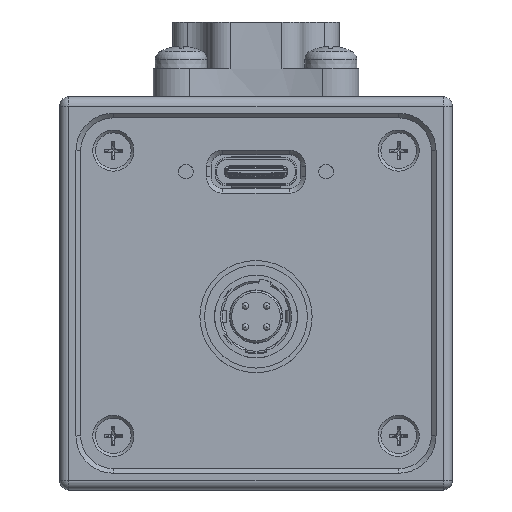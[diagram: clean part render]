
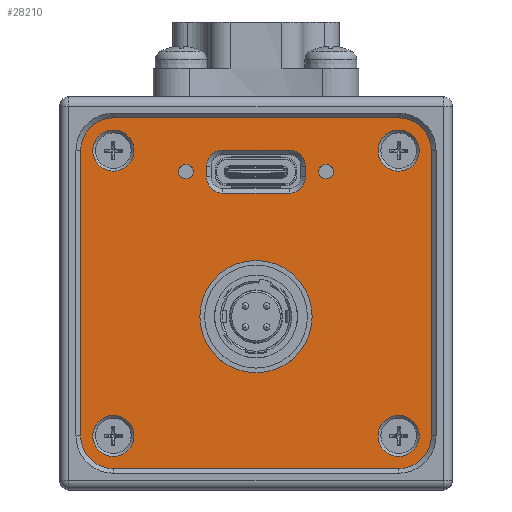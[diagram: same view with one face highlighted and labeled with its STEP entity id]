
A CAD part, top view. The second image highlights one B-rep face of the part: STEP entity #28210.
In plain terms, the highlighted planar face has unit normal (0, 0, 1).
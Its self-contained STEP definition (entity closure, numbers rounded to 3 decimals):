
#375=FACE_BOUND('',#4734,.T.);
#376=FACE_BOUND('',#4735,.T.);
#377=FACE_BOUND('',#4736,.T.);
#378=FACE_BOUND('',#4737,.T.);
#379=FACE_BOUND('',#4738,.T.);
#380=FACE_BOUND('',#4739,.T.);
#381=FACE_BOUND('',#4740,.T.);
#382=FACE_BOUND('',#4741,.T.);
#1626=CIRCLE('',#30449,1.75);
#1628=CIRCLE('',#30453,1.75);
#1630=CIRCLE('',#30457,1.75);
#1632=CIRCLE('',#30461,1.75);
#1635=CIRCLE('',#30469,3.5);
#1636=CIRCLE('',#30470,3.5);
#1637=CIRCLE('',#30471,3.5);
#1638=CIRCLE('',#30472,3.5);
#1639=CIRCLE('',#30473,6.);
#1640=CIRCLE('',#30474,0.784);
#1641=CIRCLE('',#30475,0.784);
#1642=CIRCLE('',#30476,2.2);
#1643=CIRCLE('',#30477,2.2);
#1644=CIRCLE('',#30478,2.2);
#1645=CIRCLE('',#30479,2.2);
#3118=FACE_OUTER_BOUND('',#4733,.T.);
#4733=EDGE_LOOP('',(#23245,#23246,#23247,#23248,#23249,#23250,#23251,#23252));
#4734=EDGE_LOOP('',(#23253));
#4735=EDGE_LOOP('',(#23254));
#4736=EDGE_LOOP('',(#23255));
#4737=EDGE_LOOP('',(#23256));
#4738=EDGE_LOOP('',(#23257));
#4739=EDGE_LOOP('',(#23258));
#4740=EDGE_LOOP('',(#23259));
#4741=EDGE_LOOP('',(#23260,#23261,#23262,#23263,#23264,#23265,#23266,#23267));
#7571=LINE('',#47668,#10283);
#7576=LINE('',#47682,#10288);
#7580=LINE('',#47694,#10292);
#7584=LINE('',#47706,#10296);
#7593=LINE('',#47732,#10305);
#7594=LINE('',#47736,#10306);
#7595=LINE('',#47740,#10307);
#7596=LINE('',#47744,#10308);
#10283=VECTOR('',#37091,10.);
#10288=VECTOR('',#37104,10.);
#10292=VECTOR('',#37116,10.);
#10296=VECTOR('',#37128,10.);
#10305=VECTOR('',#37157,10.);
#10306=VECTOR('',#37160,10.);
#10307=VECTOR('',#37163,10.);
#10308=VECTOR('',#37166,10.);
#12697=VERTEX_POINT('',#47665);
#12698=VERTEX_POINT('',#47667);
#12701=VERTEX_POINT('',#47675);
#12703=VERTEX_POINT('',#47680);
#12705=VERTEX_POINT('',#47687);
#12707=VERTEX_POINT('',#47692);
#12709=VERTEX_POINT('',#47699);
#12711=VERTEX_POINT('',#47704);
#12717=VERTEX_POINT('',#47730);
#12718=VERTEX_POINT('',#47731);
#12719=VERTEX_POINT('',#47733);
#12720=VERTEX_POINT('',#47735);
#12721=VERTEX_POINT('',#47737);
#12722=VERTEX_POINT('',#47739);
#12723=VERTEX_POINT('',#47741);
#12724=VERTEX_POINT('',#47743);
#12725=VERTEX_POINT('',#47746);
#12726=VERTEX_POINT('',#47748);
#12727=VERTEX_POINT('',#47750);
#12728=VERTEX_POINT('',#47752);
#12729=VERTEX_POINT('',#47754);
#12730=VERTEX_POINT('',#47756);
#12731=VERTEX_POINT('',#47758);
#16301=EDGE_CURVE('',#12697,#12698,#7571,.T.);
#16306=EDGE_CURVE('',#12701,#12697,#1626,.T.);
#16308=EDGE_CURVE('',#12703,#12701,#7576,.T.);
#16312=EDGE_CURVE('',#12705,#12703,#1628,.T.);
#16314=EDGE_CURVE('',#12707,#12705,#7580,.T.);
#16318=EDGE_CURVE('',#12709,#12707,#1630,.T.);
#16320=EDGE_CURVE('',#12711,#12709,#7584,.T.);
#16323=EDGE_CURVE('',#12698,#12711,#1632,.T.);
#16333=EDGE_CURVE('',#12717,#12718,#7593,.T.);
#16334=EDGE_CURVE('',#12719,#12717,#1635,.T.);
#16335=EDGE_CURVE('',#12720,#12719,#7594,.T.);
#16336=EDGE_CURVE('',#12721,#12720,#1636,.T.);
#16337=EDGE_CURVE('',#12722,#12721,#7595,.T.);
#16338=EDGE_CURVE('',#12723,#12722,#1637,.T.);
#16339=EDGE_CURVE('',#12724,#12723,#7596,.T.);
#16340=EDGE_CURVE('',#12718,#12724,#1638,.T.);
#16341=EDGE_CURVE('',#12725,#12725,#1639,.T.);
#16342=EDGE_CURVE('',#12726,#12726,#1640,.T.);
#16343=EDGE_CURVE('',#12727,#12727,#1641,.T.);
#16344=EDGE_CURVE('',#12728,#12728,#1642,.T.);
#16345=EDGE_CURVE('',#12729,#12729,#1643,.T.);
#16346=EDGE_CURVE('',#12730,#12730,#1644,.T.);
#16347=EDGE_CURVE('',#12731,#12731,#1645,.T.);
#23245=ORIENTED_EDGE('',*,*,#16333,.F.);
#23246=ORIENTED_EDGE('',*,*,#16334,.F.);
#23247=ORIENTED_EDGE('',*,*,#16335,.F.);
#23248=ORIENTED_EDGE('',*,*,#16336,.F.);
#23249=ORIENTED_EDGE('',*,*,#16337,.F.);
#23250=ORIENTED_EDGE('',*,*,#16338,.F.);
#23251=ORIENTED_EDGE('',*,*,#16339,.F.);
#23252=ORIENTED_EDGE('',*,*,#16340,.F.);
#23253=ORIENTED_EDGE('',*,*,#16341,.F.);
#23254=ORIENTED_EDGE('',*,*,#16342,.T.);
#23255=ORIENTED_EDGE('',*,*,#16343,.T.);
#23256=ORIENTED_EDGE('',*,*,#16344,.T.);
#23257=ORIENTED_EDGE('',*,*,#16345,.T.);
#23258=ORIENTED_EDGE('',*,*,#16346,.T.);
#23259=ORIENTED_EDGE('',*,*,#16347,.T.);
#23260=ORIENTED_EDGE('',*,*,#16301,.F.);
#23261=ORIENTED_EDGE('',*,*,#16306,.F.);
#23262=ORIENTED_EDGE('',*,*,#16308,.F.);
#23263=ORIENTED_EDGE('',*,*,#16312,.F.);
#23264=ORIENTED_EDGE('',*,*,#16314,.F.);
#23265=ORIENTED_EDGE('',*,*,#16318,.F.);
#23266=ORIENTED_EDGE('',*,*,#16320,.F.);
#23267=ORIENTED_EDGE('',*,*,#16323,.F.);
#25480=PLANE('',#30468);
#28210=ADVANCED_FACE('',(#3118,#375,#376,#377,#378,#379,#380,#381,#382),
#25480,.F.);
#30449=AXIS2_PLACEMENT_3D('',#47677,#37099,#37100);
#30453=AXIS2_PLACEMENT_3D('',#47689,#37111,#37112);
#30457=AXIS2_PLACEMENT_3D('',#47701,#37123,#37124);
#30461=AXIS2_PLACEMENT_3D('',#47710,#37134,#37135);
#30468=AXIS2_PLACEMENT_3D('',#47729,#37155,#37156);
#30469=AXIS2_PLACEMENT_3D('',#47734,#37158,#37159);
#30470=AXIS2_PLACEMENT_3D('',#47738,#37161,#37162);
#30471=AXIS2_PLACEMENT_3D('',#47742,#37164,#37165);
#30472=AXIS2_PLACEMENT_3D('',#47745,#37167,#37168);
#30473=AXIS2_PLACEMENT_3D('',#47747,#37169,#37170);
#30474=AXIS2_PLACEMENT_3D('',#47749,#37171,#37172);
#30475=AXIS2_PLACEMENT_3D('',#47751,#37173,#37174);
#30476=AXIS2_PLACEMENT_3D('',#47753,#37175,#37176);
#30477=AXIS2_PLACEMENT_3D('',#47755,#37177,#37178);
#30478=AXIS2_PLACEMENT_3D('',#47757,#37179,#37180);
#30479=AXIS2_PLACEMENT_3D('',#47759,#37181,#37182);
#37091=DIRECTION('',(0.,1.,0.));
#37099=DIRECTION('center_axis',(0.,0.,
1.));
#37100=DIRECTION('ref_axis',(0.707,-0.707,0.));
#37104=DIRECTION('',(1.,0.,0.));
#37111=DIRECTION('center_axis',(0.,0.,
1.));
#37112=DIRECTION('ref_axis',(-0.707,-0.707,0.));
#37116=DIRECTION('',(0.,-1.,0.));
#37123=DIRECTION('center_axis',(0.,0.,
1.));
#37124=DIRECTION('ref_axis',(-0.707,0.707,0.));
#37128=DIRECTION('',(-1.,0.,0.));
#37134=DIRECTION('center_axis',(0.,0.,
1.));
#37135=DIRECTION('ref_axis',(0.707,0.707,0.));
#37155=DIRECTION('center_axis',(0.,0.,
-1.));
#37156=DIRECTION('ref_axis',(-1.,0.,0.));
#37157=DIRECTION('',(1.,0.,0.));
#37158=DIRECTION('center_axis',(0.,0.,
-1.));
#37159=DIRECTION('ref_axis',(0.,-1.,0.));
#37160=DIRECTION('',(0.,1.,0.));
#37161=DIRECTION('center_axis',(0.,0.,
-1.));
#37162=DIRECTION('ref_axis',(1.,0.,0.));
#37163=DIRECTION('',(-1.,0.,0.));
#37164=DIRECTION('center_axis',(0.,0.,
-1.));
#37165=DIRECTION('ref_axis',(0.,1.,0.));
#37166=DIRECTION('',(0.,-1.,0.));
#37167=DIRECTION('center_axis',(0.,0.,
-1.));
#37168=DIRECTION('ref_axis',(-1.,0.,0.));
#37169=DIRECTION('center_axis',(0.,0.,
1.));
#37170=DIRECTION('ref_axis',(-1.,0.,0.));
#37171=DIRECTION('center_axis',(0.,0.,
-1.));
#37172=DIRECTION('ref_axis',(1.,0.,0.));
#37173=DIRECTION('center_axis',(0.,0.,
-1.));
#37174=DIRECTION('ref_axis',(1.,0.,0.));
#37175=DIRECTION('center_axis',(0.,0.,
-1.));
#37176=DIRECTION('ref_axis',(1.,0.,0.));
#37177=DIRECTION('center_axis',(0.,0.,
-1.));
#37178=DIRECTION('ref_axis',(1.,0.,0.));
#37179=DIRECTION('center_axis',(0.,0.,
-1.));
#37180=DIRECTION('ref_axis',(1.,0.,0.));
#37181=DIRECTION('center_axis',(0.,0.,
-1.));
#37182=DIRECTION('ref_axis',(1.,0.,0.));
#47665=CARTESIAN_POINT('',(5.3,12.45,22.1));
#47667=CARTESIAN_POINT('',(5.3,13.55,22.1));
#47668=CARTESIAN_POINT('',(5.3,7.4,22.1));
#47675=CARTESIAN_POINT('',(3.55,10.7,22.1));
#47677=CARTESIAN_POINT('Origin',(3.55,12.45,22.1));
#47680=CARTESIAN_POINT('',(-3.55,10.7,22.1));
#47682=CARTESIAN_POINT('',(2.4,10.7,22.1));
#47687=CARTESIAN_POINT('',(-5.3,12.45,22.1));
#47689=CARTESIAN_POINT('Origin',(-3.55,12.45,22.1));
#47692=CARTESIAN_POINT('',(-5.3,13.55,22.1));
#47694=CARTESIAN_POINT('',(-5.3,5.6,22.1));
#47699=CARTESIAN_POINT('',(-3.55,15.3,22.1));
#47701=CARTESIAN_POINT('Origin',(-3.55,13.55,22.1));
#47704=CARTESIAN_POINT('',(3.55,15.3,22.1));
#47706=CARTESIAN_POINT('',(-2.4,15.3,22.1));
#47710=CARTESIAN_POINT('Origin',(3.55,13.55,22.1));
#47729=CARTESIAN_POINT('Origin',(0.,0.,
22.1));
#47730=CARTESIAN_POINT('',(-15.25,18.75,22.1));
#47731=CARTESIAN_POINT('',(15.25,18.75,22.1));
#47732=CARTESIAN_POINT('',(-15.25,18.75,22.1));
#47733=CARTESIAN_POINT('',(-18.75,15.25,22.1));
#47734=CARTESIAN_POINT('Origin',(-15.25,15.25,22.1));
#47735=CARTESIAN_POINT('',(-18.75,-15.25,22.1));
#47736=CARTESIAN_POINT('',(-18.75,-15.25,22.1));
#47737=CARTESIAN_POINT('',(-15.25,-18.75,22.1));
#47738=CARTESIAN_POINT('Origin',(-15.25,-15.25,22.1));
#47739=CARTESIAN_POINT('',(15.25,-18.75,22.1));
#47740=CARTESIAN_POINT('',(15.25,-18.75,22.1));
#47741=CARTESIAN_POINT('',(18.75,-15.25,22.1));
#47742=CARTESIAN_POINT('Origin',(15.25,-15.25,22.1));
#47743=CARTESIAN_POINT('',(18.75,15.25,22.1));
#47744=CARTESIAN_POINT('',(18.75,15.25,22.1));
#47745=CARTESIAN_POINT('Origin',(15.25,15.25,22.1));
#47746=CARTESIAN_POINT('',(6.,-2.5,22.1));
#47747=CARTESIAN_POINT('Origin',(0.,-2.5,22.1));
#47748=CARTESIAN_POINT('',(8.283,13.,22.1));
#47749=CARTESIAN_POINT('Origin',(7.5,13.,22.1));
#47750=CARTESIAN_POINT('',(-6.717,13.,22.1));
#47751=CARTESIAN_POINT('Origin',(-7.5,13.,22.1));
#47752=CARTESIAN_POINT('',(-13.05,-15.25,22.1));
#47753=CARTESIAN_POINT('Origin',(-15.25,-15.25,22.1));
#47754=CARTESIAN_POINT('',(17.45,15.25,22.1));
#47755=CARTESIAN_POINT('Origin',(15.25,15.25,22.1));
#47756=CARTESIAN_POINT('',(-13.05,15.25,22.1));
#47757=CARTESIAN_POINT('Origin',(-15.25,15.25,22.1));
#47758=CARTESIAN_POINT('',(17.45,-15.25,22.1));
#47759=CARTESIAN_POINT('Origin',(15.25,-15.25,22.1));
